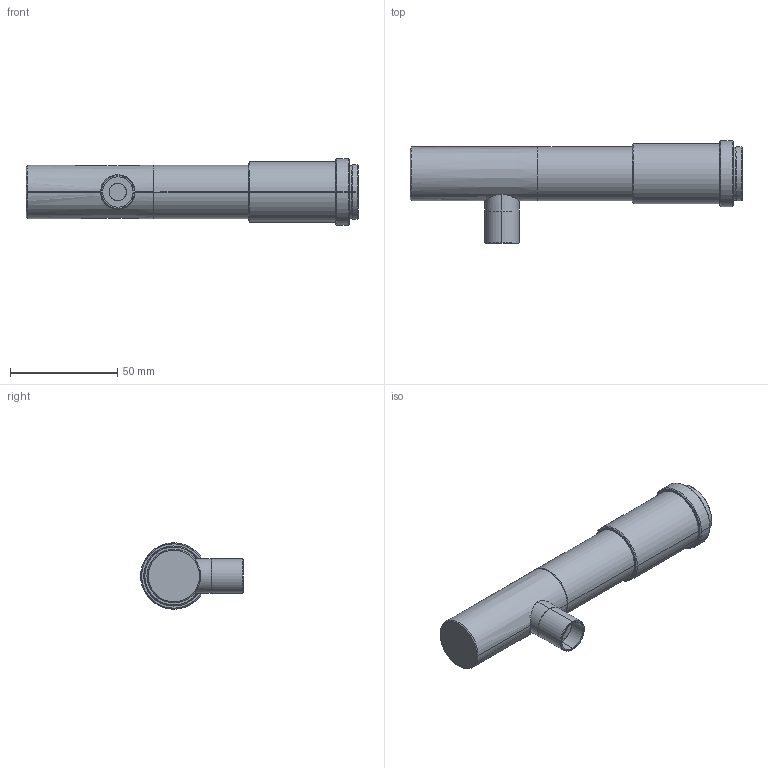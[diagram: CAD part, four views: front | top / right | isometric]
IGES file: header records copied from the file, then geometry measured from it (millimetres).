
Start section: SolidWorks IGES file using analytic representation for surfaces
Bounding box: 154.9 x 48 x 31 mm (x, y, z)
Surface area: 15695.9 mm2 (no closed solid volume)
Topology: 0 solids, 0 shells, 50 faces, 776 edges, 776 vertices
Faces by surface type: revolution 42, bspline 8
